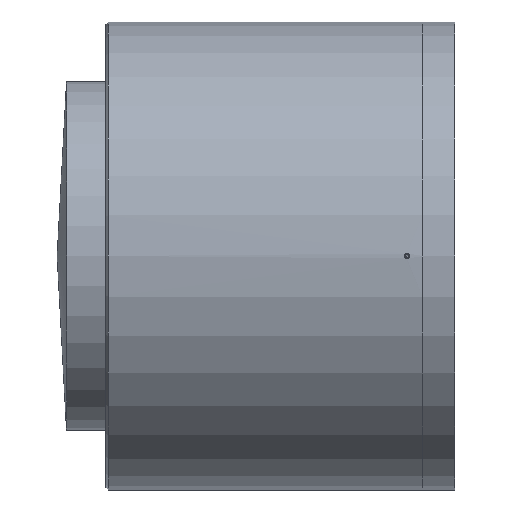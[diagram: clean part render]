
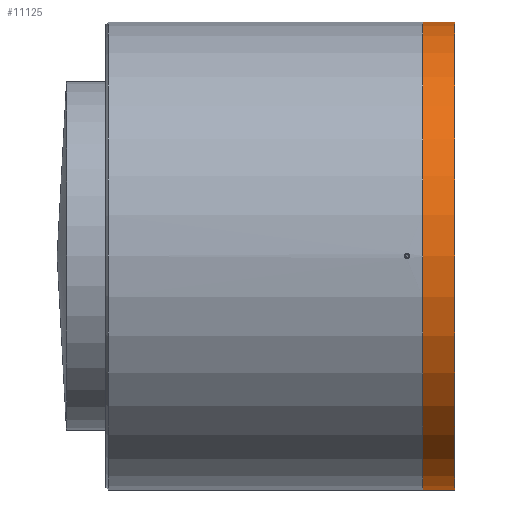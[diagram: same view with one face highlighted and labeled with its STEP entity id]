
A CAD part, left-side view. The second image highlights one B-rep face of the part: STEP entity #11125.
In plain terms, the highlighted cylindrical face has radius 181 mm (diameter 362 mm), a full revolution.
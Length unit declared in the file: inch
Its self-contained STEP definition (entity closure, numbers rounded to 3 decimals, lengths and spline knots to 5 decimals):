
#389=CYLINDRICAL_SURFACE('',#12243,7.12598);
#1354=LINE('',#19422,#2213);
#2213=VECTOR('',#15252,7.12598);
#2814=FACE_OUTER_BOUND('',#3497,.T.);
#3497=EDGE_LOOP('',(#9491,#9492,#9493,#9494,#9495));
#4050=CIRCLE('',#12107,7.12598);
#4053=CIRCLE('',#12110,7.12598);
#4060=CIRCLE('',#12226,7.12598);
#4781=VERTEX_POINT('',#18072);
#4782=VERTEX_POINT('',#18073);
#5027=VERTEX_POINT('',#19387);
#6163=EDGE_CURVE('',#4781,#4782,#4050,.T.);
#6167=EDGE_CURVE('',#4782,#4781,#4053,.T.);
#6522=EDGE_CURVE('',#5027,#5027,#4060,.T.);
#6537=EDGE_CURVE('',#4782,#5027,#1354,.T.);
#9491=ORIENTED_EDGE('',*,*,#6163,.T.);
#9492=ORIENTED_EDGE('',*,*,#6537,.T.);
#9493=ORIENTED_EDGE('',*,*,#6522,.T.);
#9494=ORIENTED_EDGE('',*,*,#6537,.F.);
#9495=ORIENTED_EDGE('',*,*,#6167,.T.);
#11125=ADVANCED_FACE('',(#2814),#389,.T.);
#12107=AXIS2_PLACEMENT_3D('',#18074,#14692,#14693);
#12110=AXIS2_PLACEMENT_3D('',#18080,#14699,#14700);
#12226=AXIS2_PLACEMENT_3D('',#19388,#15210,#15211);
#12243=AXIS2_PLACEMENT_3D('',#19421,#15250,#15251);
#14692=DIRECTION('center_axis',(0.,-1.,0.));
#14693=DIRECTION('ref_axis',(0.,0.,
-1.));
#14699=DIRECTION('center_axis',(0.,-1.,0.));
#14700=DIRECTION('ref_axis',(0.,0.,
-1.));
#15210=DIRECTION('center_axis',(0.,1.,0.));
#15211=DIRECTION('ref_axis',(-1.,0.,0.));
#15250=DIRECTION('center_axis',(0.,1.,0.));
#15251=DIRECTION('ref_axis',(-1.,0.,0.));
#15252=DIRECTION('',(0.,-1.,0.));
#18072=CARTESIAN_POINT('',(0.,-5.11811,7.12598));
#18073=CARTESIAN_POINT('',(7.12598,-5.11811,0.));
#18074=CARTESIAN_POINT('Origin',(0.,-5.11811,
0.));
#18080=CARTESIAN_POINT('Origin',(0.,-5.11811,
0.));
#19387=CARTESIAN_POINT('',(7.12598,-6.10236,0.));
#19388=CARTESIAN_POINT('Origin',(0.,-6.10236,
0.));
#19421=CARTESIAN_POINT('Origin',(0.,-5.61024,
0.));
#19422=CARTESIAN_POINT('',(7.12598,-5.61024,0.));
